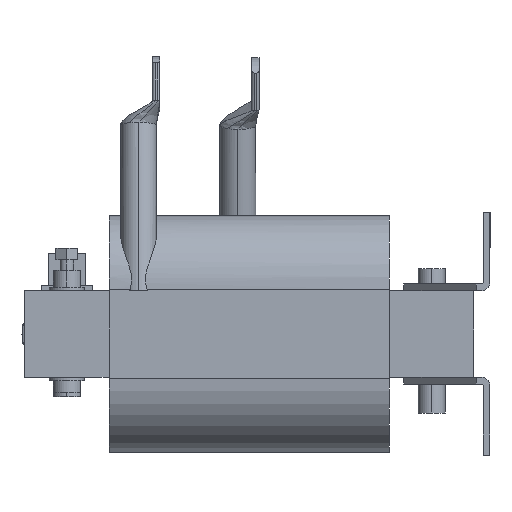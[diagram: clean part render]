
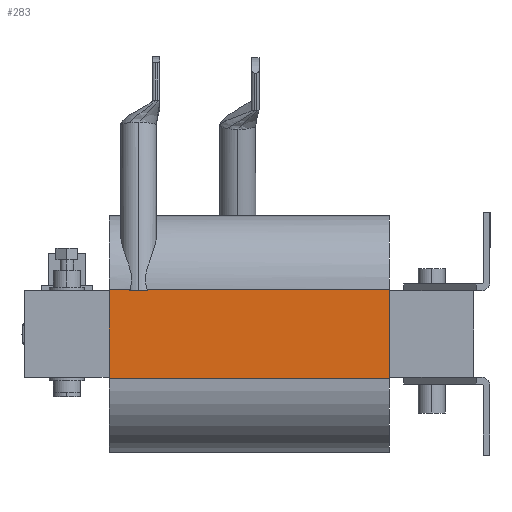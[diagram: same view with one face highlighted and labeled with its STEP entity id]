
A CAD part, left-side view. The second image highlights one B-rep face of the part: STEP entity #283.
In plain terms, the highlighted planar face has unit normal (-1, 0, 0).
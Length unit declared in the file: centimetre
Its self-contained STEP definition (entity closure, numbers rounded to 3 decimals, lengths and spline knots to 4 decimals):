
#120 = CARTESIAN_POINT ( 'NONE',  ( -14.925, 21.3226, 2.549 ) ) ;
#283 = ADVANCED_FACE ( 'NONE', ( #16309 ), #11162, .F. ) ;
#347 = ORIENTED_EDGE ( 'NONE', *, *, #16320, .F. ) ;
#1021 = DIRECTION ( 'NONE',  ( 1., 0., 0. ) ) ;
#1401 = VERTEX_POINT ( 'NONE', #7465 ) ;
#1531 = ORIENTED_EDGE ( 'NONE', *, *, #9364, .T. ) ;
#1783 = CARTESIAN_POINT ( 'NONE',  ( -14.925, 22.55, -2.62 ) ) ;
#2131 = CARTESIAN_POINT ( 'NONE',  ( -14.925, 20.803, 2.549 ) ) ;
#2215 =( BOUNDED_CURVE ( )  B_SPLINE_CURVE ( 3, ( #2387, #2915, #7480, #120 ),
 .UNSPECIFIED., .F., .T. ) 
 B_SPLINE_CURVE_WITH_KNOTS ( ( 4, 4 ),
 ( 0.4902, 0.5096 ),
 .UNSPECIFIED. ) 
 CURVE ( )  GEOMETRIC_REPRESENTATION_ITEM ( )  RATIONAL_B_SPLINE_CURVE ( ( 1., 1., 1., 1. ) ) 
 REPRESENTATION_ITEM ( '' )  );
#2303 = VECTOR ( 'NONE', #8472, 100. ) ;
#2387 = CARTESIAN_POINT ( 'NONE',  ( -14.925, 21.3045, 2.62 ) ) ;
#2676 = LINE ( 'NONE', #7773, #5689 ) ;
#2745 = EDGE_LOOP ( 'NONE', ( #8404, #15227, #5862, #14479, #347, #1531, #6305, #4162 ) ) ;
#2845 = VERTEX_POINT ( 'NONE', #13167 ) ;
#2915 = CARTESIAN_POINT ( 'NONE',  ( -14.925, 21.3105, 2.5967 ) ) ;
#2960 = CARTESIAN_POINT ( 'NONE',  ( -14.925, 22.55, 2.62 ) ) ;
#3220 = VERTEX_POINT ( 'NONE', #10576 ) ;
#3515 = CARTESIAN_POINT ( 'NONE',  ( -14.925, 20.2956, 2.5967 ) ) ;
#4162 = ORIENTED_EDGE ( 'NONE', *, *, #8272, .F. ) ;
#4380 = CARTESIAN_POINT ( 'NONE',  ( -14.925, 22.55, 2.62 ) ) ;
#5689 = VECTOR ( 'NONE', #6525, 100. ) ;
#5862 = ORIENTED_EDGE ( 'NONE', *, *, #10098, .F. ) ;
#5933 = VECTOR ( 'NONE', #12171, 100. ) ;
#6012 = CARTESIAN_POINT ( 'NONE',  ( -14.925, 20.3016, 2.62 ) ) ;
#6050 = CARTESIAN_POINT ( 'NONE',  ( -14.925, 22.55, -2.62 ) ) ;
#6102 = DIRECTION ( 'NONE',  ( 0., 0., -1. ) ) ;
#6264 = VERTEX_POINT ( 'NONE', #6012 ) ;
#6275 = CARTESIAN_POINT ( 'NONE',  ( -14.925, 20.3016, 2.62 ) ) ;
#6305 = ORIENTED_EDGE ( 'NONE', *, *, #8979, .T. ) ;
#6525 = DIRECTION ( 'NONE',  ( 0., -1., 0. ) ) ;
#7138 = AXIS2_PLACEMENT_3D ( 'NONE', #16226, #1021, #6102 ) ;
#7465 = CARTESIAN_POINT ( 'NONE',  ( -14.925, 20.2835, 2.549 ) ) ;
#7480 = CARTESIAN_POINT ( 'NONE',  ( -14.925, 21.3166, 2.5731 ) ) ;
#7773 = CARTESIAN_POINT ( 'NONE',  ( -14.925, 22.55, 2.62 ) ) ;
#8060 = DIRECTION ( 'NONE',  ( 0., -1., 0. ) ) ;
#8066 = VECTOR ( 'NONE', #9882, 100. ) ;
#8272 = EDGE_CURVE ( 'NONE', #6264, #2845, #2676, .T. ) ;
#8404 = ORIENTED_EDGE ( 'NONE', *, *, #15961, .F. ) ;
#8472 = DIRECTION ( 'NONE',  ( 0., -1., 0. ) ) ;
#8945 = VECTOR ( 'NONE', #8060, 100. ) ;
#8979 = EDGE_CURVE ( 'NONE', #10880, #2845, #14094, .T. ) ;
#9015 = VERTEX_POINT ( 'NONE', #1783 ) ;
#9364 = EDGE_CURVE ( 'NONE', #9015, #10880, #14751, .T. ) ;
#9882 = DIRECTION ( 'NONE',  ( 0., 0., 1. ) ) ;
#9961 = EDGE_CURVE ( 'NONE', #14367, #3220, #10461, .T. ) ;
#10098 = EDGE_CURVE ( 'NONE', #3220, #13234, #2215, .T. ) ;
#10461 = LINE ( 'NONE', #4380, #8945 ) ;
#10576 = CARTESIAN_POINT ( 'NONE',  ( -14.925, 21.3045, 2.62 ) ) ;
#10638 = CARTESIAN_POINT ( 'NONE',  ( -14.925, 5.95, -2.62 ) ) ;
#10880 = VERTEX_POINT ( 'NONE', #10638 ) ;
#11162 = PLANE ( 'NONE',  #7138 ) ;
#12171 = DIRECTION ( 'NONE',  ( 0., -1., 0. ) ) ;
#12469 = EDGE_CURVE ( 'NONE', #13234, #1401, #13531, .T. ) ;
#12774 = CARTESIAN_POINT ( 'NONE',  ( -14.925, 5.95, -2.62 ) ) ;
#13167 = CARTESIAN_POINT ( 'NONE',  ( -14.925, 5.95, 2.62 ) ) ;
#13234 = VERTEX_POINT ( 'NONE', #15595 ) ;
#13531 = LINE ( 'NONE', #2131, #2303 ) ;
#14023 = DIRECTION ( 'NONE',  ( 0., 0., 1. ) ) ;
#14094 = LINE ( 'NONE', #12774, #14446 ) ;
#14367 = VERTEX_POINT ( 'NONE', #2960 ) ;
#14446 = VECTOR ( 'NONE', #14023, 100. ) ;
#14479 = ORIENTED_EDGE ( 'NONE', *, *, #9961, .F. ) ;
#14542 =( BOUNDED_CURVE ( )  B_SPLINE_CURVE ( 3, ( #15158, #14999, #3515, #6275 ),
 .UNSPECIFIED., .F., .T. ) 
 B_SPLINE_CURVE_WITH_KNOTS ( ( 4, 4 ),
 ( 5.7736, 5.793 ),
 .UNSPECIFIED. ) 
 CURVE ( )  GEOMETRIC_REPRESENTATION_ITEM ( )  RATIONAL_B_SPLINE_CURVE ( ( 1., 1., 1., 1. ) ) 
 REPRESENTATION_ITEM ( '' )  );
#14751 = LINE ( 'NONE', #15745, #5933 ) ;
#14999 = CARTESIAN_POINT ( 'NONE',  ( -14.925, 20.2895, 2.5731 ) ) ;
#15158 = CARTESIAN_POINT ( 'NONE',  ( -14.925, 20.2835, 2.549 ) ) ;
#15227 = ORIENTED_EDGE ( 'NONE', *, *, #12469, .F. ) ;
#15595 = CARTESIAN_POINT ( 'NONE',  ( -14.925, 21.3226, 2.549 ) ) ;
#15745 = CARTESIAN_POINT ( 'NONE',  ( -14.925, 22.55, -2.62 ) ) ;
#15944 = LINE ( 'NONE', #6050, #8066 ) ;
#15961 = EDGE_CURVE ( 'NONE', #1401, #6264, #14542, .T. ) ;
#16226 = CARTESIAN_POINT ( 'NONE',  ( -14.925, 22.55, -2.62 ) ) ;
#16309 = FACE_OUTER_BOUND ( 'NONE', #2745, .T. ) ;
#16320 = EDGE_CURVE ( 'NONE', #9015, #14367, #15944, .T. ) ;
